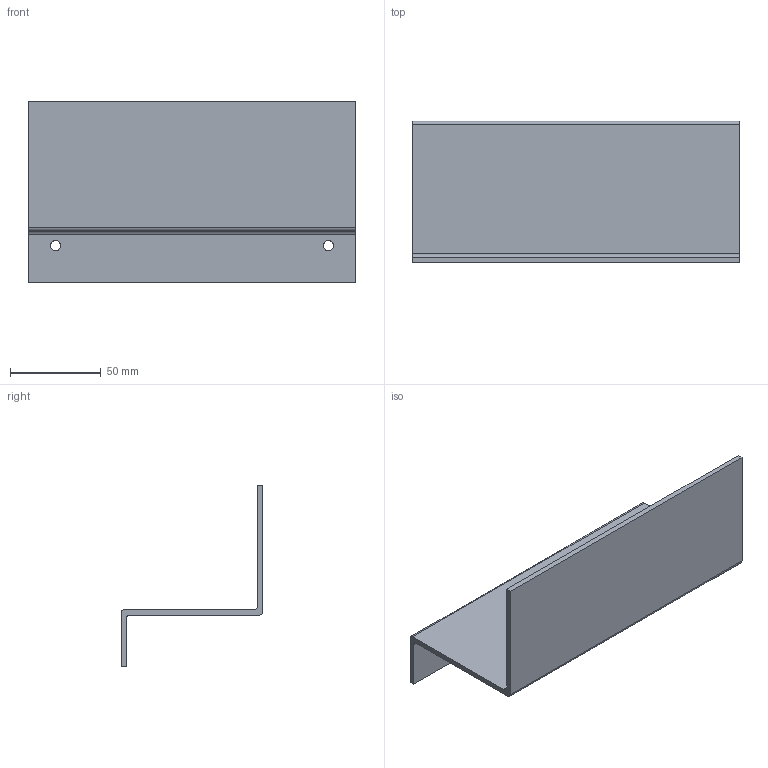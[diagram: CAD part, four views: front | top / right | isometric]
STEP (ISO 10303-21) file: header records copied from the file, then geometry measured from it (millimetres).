
FILE_DESCRIPTION(/* description */ (''),/* implementation_level */ '2;1');
FILE_NAME(/* name */ 'uchwyt_1 v6.step',/* time_stamp */ '2026-04-10T14:32:26+02:00',/* author */ (''),/* organization */ (''),/* preprocessor_version */ 'ST-DEVELOPER v20.1',/* originating_system */ 'Autodesk Translation Framework v14.24.0.0',/* authorisation */ '');
FILE_SCHEMA (('AUTOMOTIVE_DESIGN { 1 0 10303 214 3 1 1 }'));
Length unit declared in the file: millimetre
Products named in the file (1): (Niezapisany)
Bounding box: 180 x 78 x 100 mm (x, y, z)
Volume: 94357.5 mm3; surface area: 64520.6 mm2
Topology: 1 solids, 1 shells, 16 faces, 42 edges, 28 vertices
Faces by surface type: plane 10, cylinder 6
Full cylindrical faces by diameter (mm): 5.5 x2
Entity records: 539 total; most frequent: DIRECTION 88, CARTESIAN_POINT 87, ORIENTED_EDGE 84, EDGE_CURVE 42, LINE 30, VECTOR 30, AXIS2_PLACEMENT_3D 29, VERTEX_POINT 28
